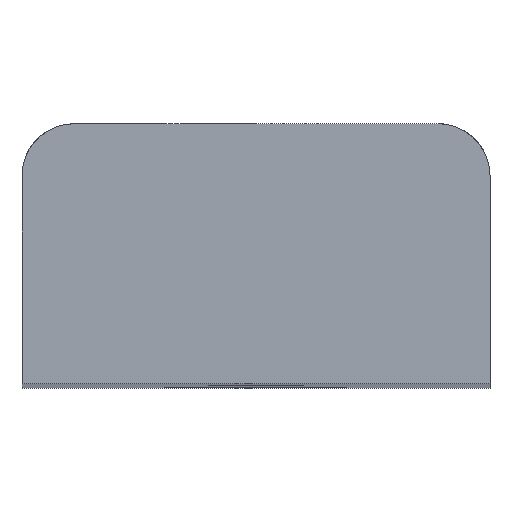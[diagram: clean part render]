
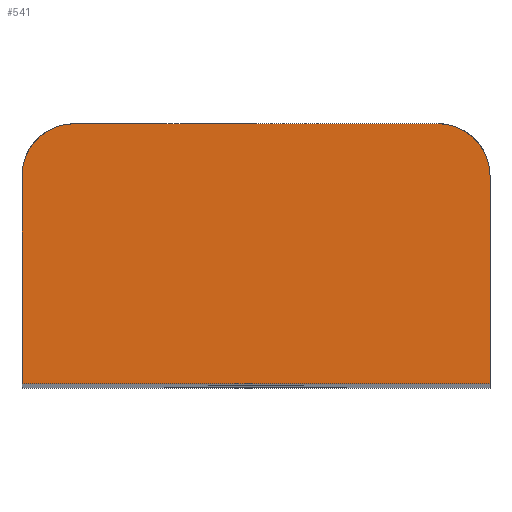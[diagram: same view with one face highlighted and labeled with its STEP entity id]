
A CAD part, top view. The second image highlights one B-rep face of the part: STEP entity #541.
In plain terms, the highlighted face is a extrusion surface.
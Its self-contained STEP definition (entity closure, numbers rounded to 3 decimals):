
#480=CARTESIAN_POINT('Control Point',(-9.,-5.,50.)) ;
#481=CARTESIAN_POINT('Control Point',(9.066,-5.,50.)) ;
#486=CARTESIAN_POINT('Control Point',(-7.,5.,50.)) ;
#487=CARTESIAN_POINT('Control Point',(-7.628,5.,50.)) ;
#488=CARTESIAN_POINT('Control Point',(-8.257,4.754,50.)) ;
#489=CARTESIAN_POINT('Control Point',(-8.754,4.257,50.)) ;
#490=CARTESIAN_POINT('Control Point',(-9.,3.628,50.)) ;
#491=CARTESIAN_POINT('Control Point',(-9.,3.,50.)) ;
#492=CARTESIAN_POINT('Vertex',(-7.,5.,50.)) ;
#494=CARTESIAN_POINT('Vertex',(-9.,3.,50.)) ;
#497=CARTESIAN_POINT('Line Origine',(-9.,0.,50.)) ;
#501=CARTESIAN_POINT('Vertex',(-9.,-5.,50.)) ;
#504=CARTESIAN_POINT('Line Origine',(0.,-5.,50.)) ;
#508=CARTESIAN_POINT('Vertex',(9.,-5.,50.)) ;
#511=CARTESIAN_POINT('Line Origine',(9.,0.,50.)) ;
#515=CARTESIAN_POINT('Vertex',(9.,3.,50.)) ;
#519=CARTESIAN_POINT('Control Point',(9.,3.,50.)) ;
#520=CARTESIAN_POINT('Control Point',(9.,3.628,50.)) ;
#521=CARTESIAN_POINT('Control Point',(8.754,4.257,50.)) ;
#522=CARTESIAN_POINT('Control Point',(8.257,4.754,50.)) ;
#523=CARTESIAN_POINT('Control Point',(7.628,5.,50.)) ;
#524=CARTESIAN_POINT('Control Point',(7.,5.,50.)) ;
#525=CARTESIAN_POINT('Vertex',(7.,5.,50.)) ;
#528=CARTESIAN_POINT('Line Origine',(0.,5.,50.)) ;
#482=DIRECTION('Vector Direction',(0.,1.,0.)) ;
#498=DIRECTION('Vector Direction',(0.,1.,0.)) ;
#505=DIRECTION('Vector Direction',(1.,0.,0.)) ;
#512=DIRECTION('Vector Direction',(0.,1.,0.)) ;
#529=DIRECTION('Vector Direction',(1.,0.,0.)) ;
#534=ORIENTED_EDGE('',*,*,#496,.T.) ;
#535=ORIENTED_EDGE('',*,*,#503,.T.) ;
#536=ORIENTED_EDGE('',*,*,#510,.T.) ;
#537=ORIENTED_EDGE('',*,*,#517,.T.) ;
#538=ORIENTED_EDGE('',*,*,#527,.T.) ;
#539=ORIENTED_EDGE('',*,*,#532,.T.) ;
#483=VECTOR('Extrusion Surface Vector',#482,1.) ;
#499=VECTOR('Line Direction',#498,1.) ;
#506=VECTOR('Line Direction',#505,1.) ;
#513=VECTOR('Line Direction',#512,1.) ;
#530=VECTOR('Line Direction',#529,1.) ;
#541=ADVANCED_FACE('Superficie.7',(#540),#484,.T.) ;
#479=B_SPLINE_CURVE_WITH_KNOTS('',1,(#480,#481),.UNSPECIFIED.,.F.,.U.,(2,2),(-9.,9.066),.UNSPECIFIED.) ;
#485=B_SPLINE_CURVE_WITH_KNOTS('',5,(#486,#487,#488,#489,#490,#491),.UNSPECIFIED.,.F.,.U.,(6,6),(0.,4.443),.UNSPECIFIED.) ;
#518=B_SPLINE_CURVE_WITH_KNOTS('',5,(#519,#520,#521,#522,#523,#524),.UNSPECIFIED.,.F.,.U.,(6,6),(0.,4.443),.UNSPECIFIED.) ;
#496=EDGE_CURVE('',#493,#495,#485,.T.) ;
#503=EDGE_CURVE('',#495,#502,#500,.F.) ;
#510=EDGE_CURVE('',#502,#509,#507,.T.) ;
#517=EDGE_CURVE('',#509,#516,#514,.T.) ;
#527=EDGE_CURVE('',#516,#526,#518,.T.) ;
#532=EDGE_CURVE('',#526,#493,#531,.F.) ;
#533=EDGE_LOOP('',(#534,#535,#536,#537,#538,#539)) ;
#540=FACE_OUTER_BOUND('',#533,.T.) ;
#500=LINE('Line',#497,#499) ;
#507=LINE('Line',#504,#506) ;
#514=LINE('Line',#511,#513) ;
#531=LINE('Line',#528,#530) ;
#484=SURFACE_OF_LINEAR_EXTRUSION('generated tabulated cylinder',#479,#483) ;
#493=VERTEX_POINT('',#492) ;
#495=VERTEX_POINT('',#494) ;
#502=VERTEX_POINT('',#501) ;
#509=VERTEX_POINT('',#508) ;
#516=VERTEX_POINT('',#515) ;
#526=VERTEX_POINT('',#525) ;
